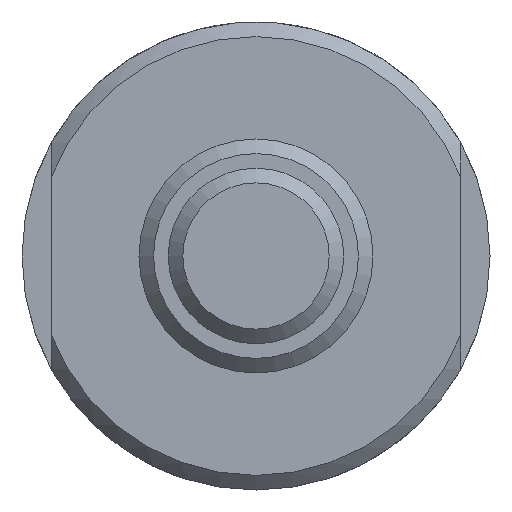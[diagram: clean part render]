
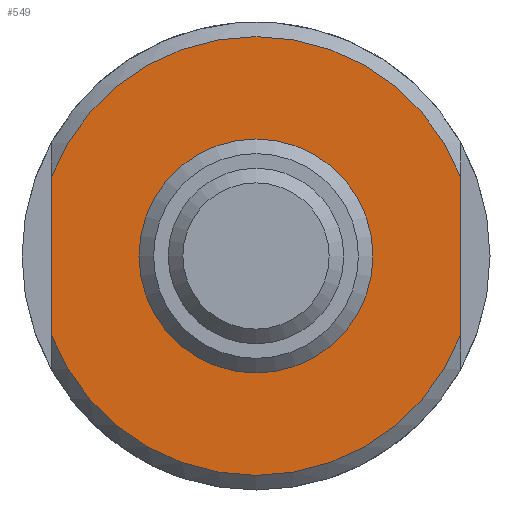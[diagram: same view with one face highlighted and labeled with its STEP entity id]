
A CAD part, left-side view. The second image highlights one B-rep face of the part: STEP entity #549.
In plain terms, the highlighted planar face has unit normal (-1, 0, 0).
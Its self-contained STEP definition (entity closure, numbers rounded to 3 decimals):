
#80=CIRCLE('',#643,4.);
#81=CIRCLE('',#644,7.5);
#82=CIRCLE('',#645,7.5);
#163=ORIENTED_EDGE('',*,*,#251,.T.);
#164=ORIENTED_EDGE('',*,*,#252,.F.);
#165=ORIENTED_EDGE('',*,*,#253,.F.);
#166=ORIENTED_EDGE('',*,*,#254,.T.);
#167=ORIENTED_EDGE('',*,*,#255,.F.);
#251=EDGE_CURVE('',#306,#306,#80,.T.);
#252=EDGE_CURVE('',#307,#308,#337,.T.);
#253=EDGE_CURVE('',#309,#307,#81,.T.);
#254=EDGE_CURVE('',#309,#310,#338,.T.);
#255=EDGE_CURVE('',#308,#310,#82,.T.);
#306=VERTEX_POINT('',#952);
#307=VERTEX_POINT('',#954);
#308=VERTEX_POINT('',#955);
#309=VERTEX_POINT('',#957);
#310=VERTEX_POINT('',#959);
#337=LINE('',#953,#355);
#338=LINE('',#958,#356);
#355=VECTOR('',#792,1000.);
#356=VECTOR('',#795,1000.);
#407=EDGE_LOOP('',(#163));
#408=EDGE_LOOP('',(#164,#165,#166,#167));
#477=FACE_BOUND('',#407,.T.);
#478=FACE_BOUND('',#408,.T.);
#516=PLANE('',#642);
#549=ADVANCED_FACE('',(#477,#478),#516,.F.);
#642=AXIS2_PLACEMENT_3D('',#950,#788,#789);
#643=AXIS2_PLACEMENT_3D('',#951,#790,#791);
#644=AXIS2_PLACEMENT_3D('',#956,#793,#794);
#645=AXIS2_PLACEMENT_3D('',#960,#796,#797);
#788=DIRECTION('',(1.,0.,0.));
#789=DIRECTION('',(0.,0.,-1.));
#790=DIRECTION('',(1.,0.,0.));
#791=DIRECTION('',(0.,0.,-1.));
#792=DIRECTION('',(0.,0.,-1.));
#793=DIRECTION('',(1.,0.,0.));
#794=DIRECTION('',(0.,0.,-1.));
#795=DIRECTION('',(0.,0.,-1.));
#796=DIRECTION('',(1.,0.,0.));
#797=DIRECTION('',(0.,0.,-1.));
#950=CARTESIAN_POINT('',(0.,0.,0.));
#951=CARTESIAN_POINT('',(0.,0.,0.));
#952=CARTESIAN_POINT('',(0.,0.,-4.));
#953=CARTESIAN_POINT('',(0.,-7.,10.));
#954=CARTESIAN_POINT('',(0.,-7.,2.693));
#955=CARTESIAN_POINT('',(0.,-7.,-2.693));
#956=CARTESIAN_POINT('',(0.,0.,0.));
#957=CARTESIAN_POINT('',(0.,7.,2.693));
#958=CARTESIAN_POINT('',(0.,7.,10.));
#959=CARTESIAN_POINT('',(0.,7.,-2.693));
#960=CARTESIAN_POINT('',(0.,0.,0.));
